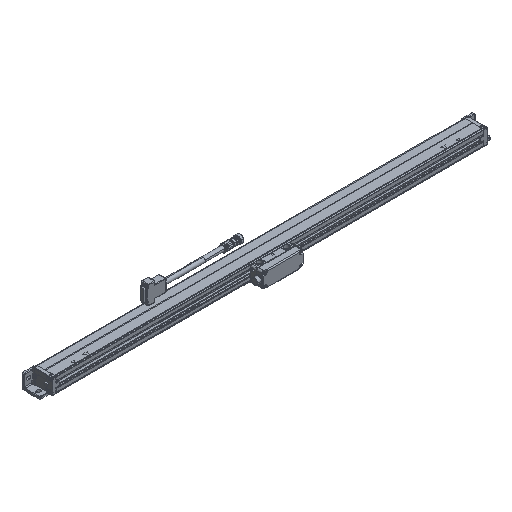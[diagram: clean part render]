
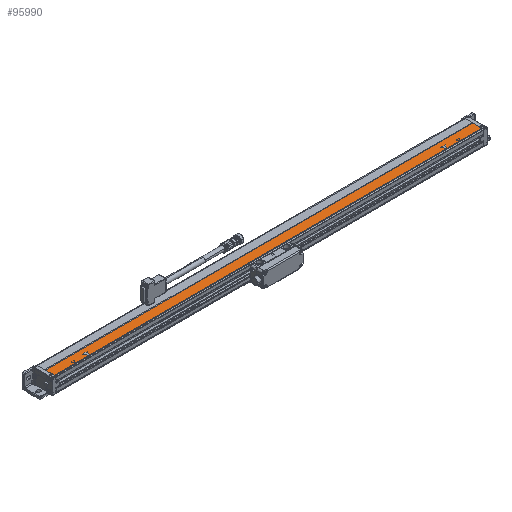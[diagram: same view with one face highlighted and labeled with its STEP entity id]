
A CAD part, isometric view. The second image highlights one B-rep face of the part: STEP entity #95990.
In plain terms, the highlighted planar face has unit normal (0, 0, 1).
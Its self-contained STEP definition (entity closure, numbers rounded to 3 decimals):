
#62340=CARTESIAN_POINT('',(1774.,65.11,34.29));
#62350=VERTEX_POINT('',#62340);
#62520=CARTESIAN_POINT('',(1772.268,68.11,34.29));
#62530=VERTEX_POINT('',#62520);
#62560=CARTESIAN_POINT('',(1759.197,90.75,34.29));
#62570=DIRECTION('',(-0.5,0.866,0.));
#62580=VECTOR('',#62570,1.);
#62590=LINE('',#62560,#62580);
#62600=EDGE_CURVE('',#62350,#62530,#62590,.T.);
#93670=CARTESIAN_POINT('',(2682.,82.01,34.29));
#93680=VERTEX_POINT('',#93670);
#93730=CARTESIAN_POINT('',(2144.,82.01,34.29));
#93740=DIRECTION('',(1.,0.,0.));
#93750=VECTOR('',#93740,1.);
#93760=LINE('',#93730,#93750);
#93770=CARTESIAN_POINT('',(1726.,82.01,34.29));
#93780=VERTEX_POINT('',#93770);
#93790=EDGE_CURVE('',#93780,#93680,#93760,.T.);
#94260=CARTESIAN_POINT('',(2144.,62.01,34.29));
#94270=DIRECTION('',(-0.,0.,1.));
#94280=DIRECTION('',(0.,-1.,0.));
#94290=AXIS2_PLACEMENT_3D('',#94260,#94270,#94280);
#94300=PLANE('',#94290);
#94310=CARTESIAN_POINT('',(2144.,62.01,34.29));
#94320=DIRECTION('',(1.,0.,0.));
#94330=VECTOR('',#94320,1.);
#94340=LINE('',#94310,#94330);
#94350=CARTESIAN_POINT('',(1726.,62.01,34.29));
#94360=VERTEX_POINT('',#94350);
#94370=CARTESIAN_POINT('',(2682.,62.01,34.29));
#94380=VERTEX_POINT('',#94370);
#94390=EDGE_CURVE('',#94360,#94380,#94340,.T.);
#94400=ORIENTED_EDGE('',*,*,#94390,.T.);
#94410=CARTESIAN_POINT('',(1726.,90.75,34.29));
#94420=DIRECTION('',(0.,-1.,0.));
#94430=VECTOR('',#94420,1.);
#94440=LINE('',#94410,#94430);
#94450=EDGE_CURVE('',#93780,#94360,#94440,.T.);
#94460=ORIENTED_EDGE('',*,*,#94450,.T.);
#94470=ORIENTED_EDGE('',*,*,#93790,.F.);
#94480=CARTESIAN_POINT('',(2682.,90.75,34.29));
#94490=DIRECTION('',(0.,1.,0.));
#94500=VECTOR('',#94490,1.);
#94510=LINE('',#94480,#94500);
#94520=EDGE_CURVE('',#94380,#93680,#94510,.T.);
#94530=ORIENTED_EDGE('',*,*,#94520,.T.);
#94540=EDGE_LOOP('',(#94530,#94470,#94460,#94400));
#94550=FACE_OUTER_BOUND('',#94540,.T.);
#94560=CARTESIAN_POINT('',(2650.535,90.75,34.29));
#94570=DIRECTION('',(0.5,0.866,0.));
#94580=VECTOR('',#94570,1.);
#94590=LINE('',#94560,#94580);
#94600=CARTESIAN_POINT('',(2634.,62.11,34.29));
#94610=VERTEX_POINT('',#94600);
#94620=CARTESIAN_POINT('',(2637.464,68.11,34.29));
#94630=VERTEX_POINT('',#94620);
#94640=EDGE_CURVE('',#94610,#94630,#94590,.T.);
#94650=ORIENTED_EDGE('',*,*,#94640,.F.);
#94660=CARTESIAN_POINT('',(2877.,68.11,34.29));
#94670=DIRECTION('',(-1.,0.,0.));
#94680=VECTOR('',#94670,1.);
#94690=LINE('',#94660,#94680);
#94700=CARTESIAN_POINT('',(2635.732,68.11,34.29));
#94710=VERTEX_POINT('',#94700);
#94720=EDGE_CURVE('',#94630,#94710,#94690,.T.);
#94730=ORIENTED_EDGE('',*,*,#94720,.F.);
#94740=CARTESIAN_POINT('',(2648.803,90.75,34.29));
#94750=DIRECTION('',(-0.5,-0.866,-0.));
#94760=VECTOR('',#94750,1.);
#94770=LINE('',#94740,#94760);
#94780=CARTESIAN_POINT('',(2634.,65.11,34.29));
#94790=VERTEX_POINT('',#94780);
#94800=EDGE_CURVE('',#94710,#94790,#94770,.T.);
#94810=ORIENTED_EDGE('',*,*,#94800,.F.);
#94820=CARTESIAN_POINT('',(2619.197,90.75,34.29));
#94830=DIRECTION('',(-0.5,0.866,0.));
#94840=VECTOR('',#94830,1.);
#94850=LINE('',#94820,#94840);
#94860=CARTESIAN_POINT('',(2632.268,68.11,34.29));
#94870=VERTEX_POINT('',#94860);
#94880=EDGE_CURVE('',#94790,#94870,#94850,.T.);
#94890=ORIENTED_EDGE('',*,*,#94880,.F.);
#94900=CARTESIAN_POINT('',(2877.,68.11,34.29));
#94910=DIRECTION('',(-1.,0.,0.));
#94920=VECTOR('',#94910,1.);
#94930=LINE('',#94900,#94920);
#94940=CARTESIAN_POINT('',(2630.536,68.11,34.29));
#94950=VERTEX_POINT('',#94940);
#94960=EDGE_CURVE('',#94870,#94950,#94930,.T.);
#94970=ORIENTED_EDGE('',*,*,#94960,.F.);
#94980=CARTESIAN_POINT('',(2617.465,90.75,34.29));
#94990=DIRECTION('',(0.5,-0.866,0.));
#95000=VECTOR('',#94990,1.);
#95010=LINE('',#94980,#95000);
#95020=EDGE_CURVE('',#94950,#94610,#95010,.T.);
#95030=ORIENTED_EDGE('',*,*,#95020,.F.);
#95040=EDGE_LOOP('',(#95030,#94970,#94890,#94810,#94730,#94650));
#95050=FACE_BOUND('',#95040,.T.);
#95060=CARTESIAN_POINT('',(642.,71.11,34.29));
#95070=DIRECTION('',(-1.,0.,0.));
#95080=VECTOR('',#95070,1.);
#95090=LINE('',#95060,#95080);
#95100=CARTESIAN_POINT('',(2609.196,71.11,34.29));
#95110=VERTEX_POINT('',#95100);
#95120=CARTESIAN_POINT('',(2598.804,71.11,34.29));
#95130=VERTEX_POINT('',#95120);
#95140=EDGE_CURVE('',#95110,#95130,#95090,.T.);
#95150=ORIENTED_EDGE('',*,*,#95140,.F.);
#95160=CARTESIAN_POINT('',(2587.465,90.75,34.29));
#95170=DIRECTION('',(0.5,-0.866,0.));
#95180=VECTOR('',#95170,1.);
#95190=LINE('',#95160,#95180);
#95200=CARTESIAN_POINT('',(2604.,62.11,34.29));
#95210=VERTEX_POINT('',#95200);
#95220=EDGE_CURVE('',#95130,#95210,#95190,.T.);
#95230=ORIENTED_EDGE('',*,*,#95220,.F.);
#95240=CARTESIAN_POINT('',(2620.535,90.75,34.29));
#95250=DIRECTION('',(0.5,0.866,0.));
#95260=VECTOR('',#95250,1.);
#95270=LINE('',#95240,#95260);
#95280=EDGE_CURVE('',#95210,#95110,#95270,.T.);
#95290=ORIENTED_EDGE('',*,*,#95280,.F.);
#95300=EDGE_LOOP('',(#95290,#95230,#95150));
#95310=FACE_BOUND('',#95300,.T.);
#95320=CARTESIAN_POINT('',(1787.465,90.75,34.29));
#95330=DIRECTION('',(0.5,-0.866,0.));
#95340=VECTOR('',#95330,1.);
#95350=LINE('',#95320,#95340);
#95360=CARTESIAN_POINT('',(1798.804,71.11,34.29));
#95370=VERTEX_POINT('',#95360);
#95380=CARTESIAN_POINT('',(1804.,62.11,34.29));
#95390=VERTEX_POINT('',#95380);
#95400=EDGE_CURVE('',#95370,#95390,#95350,.T.);
#95410=ORIENTED_EDGE('',*,*,#95400,.F.);
#95420=CARTESIAN_POINT('',(1820.535,90.75,34.29));
#95430=DIRECTION('',(0.5,0.866,0.));
#95440=VECTOR('',#95430,1.);
#95450=LINE('',#95420,#95440);
#95460=CARTESIAN_POINT('',(1809.196,71.11,34.29));
#95470=VERTEX_POINT('',#95460);
#95480=EDGE_CURVE('',#95390,#95470,#95450,.T.);
#95490=ORIENTED_EDGE('',*,*,#95480,.F.);
#95500=CARTESIAN_POINT('',(2342.,71.11,34.29));
#95510=DIRECTION('',(-1.,0.,0.));
#95520=VECTOR('',#95510,1.);
#95530=LINE('',#95500,#95520);
#95540=EDGE_CURVE('',#95470,#95370,#95530,.T.);
#95550=ORIENTED_EDGE('',*,*,#95540,.F.);
#95560=EDGE_LOOP('',(#95550,#95490,#95410));
#95570=FACE_BOUND('',#95560,.T.);
#95580=CARTESIAN_POINT('',(1790.535,90.75,34.29));
#95590=DIRECTION('',(0.5,0.866,0.));
#95600=VECTOR('',#95590,1.);
#95610=LINE('',#95580,#95600);
#95620=CARTESIAN_POINT('',(1774.,62.11,34.29));
#95630=VERTEX_POINT('',#95620);
#95640=CARTESIAN_POINT('',(1777.464,68.11,34.29));
#95650=VERTEX_POINT('',#95640);
#95660=EDGE_CURVE('',#95630,#95650,#95610,.T.);
#95670=ORIENTED_EDGE('',*,*,#95660,.F.);
#95680=CARTESIAN_POINT('',(2377.,68.11,34.29));
#95690=DIRECTION('',(-1.,0.,-0.));
#95700=VECTOR('',#95690,1.);
#95710=LINE('',#95680,#95700);
#95720=CARTESIAN_POINT('',(1775.732,68.11,34.29));
#95730=VERTEX_POINT('',#95720);
#95740=EDGE_CURVE('',#95650,#95730,#95710,.T.);
#95750=ORIENTED_EDGE('',*,*,#95740,.F.);
#95760=CARTESIAN_POINT('',(1788.803,90.75,34.29));
#95770=DIRECTION('',(-0.5,-0.866,-0.));
#95780=VECTOR('',#95770,1.);
#95790=LINE('',#95760,#95780);
#95800=EDGE_CURVE('',#95730,#62350,#95790,.T.);
#95810=ORIENTED_EDGE('',*,*,#95800,.F.);
#95820=ORIENTED_EDGE('',*,*,#62600,.F.);
#95830=CARTESIAN_POINT('',(2377.,68.11,34.29));
#95840=DIRECTION('',(-1.,0.,-0.));
#95850=VECTOR('',#95840,1.);
#95860=LINE('',#95830,#95850);
#95870=CARTESIAN_POINT('',(1770.536,68.11,34.29));
#95880=VERTEX_POINT('',#95870);
#95890=EDGE_CURVE('',#62530,#95880,#95860,.T.);
#95900=ORIENTED_EDGE('',*,*,#95890,.F.);
#95910=CARTESIAN_POINT('',(1757.465,90.75,34.29));
#95920=DIRECTION('',(0.5,-0.866,0.));
#95930=VECTOR('',#95920,1.);
#95940=LINE('',#95910,#95930);
#95950=EDGE_CURVE('',#95880,#95630,#95940,.T.);
#95960=ORIENTED_EDGE('',*,*,#95950,.F.);
#95970=EDGE_LOOP('',(#95960,#95900,#95820,#95810,#95750,#95670));
#95980=FACE_BOUND('',#95970,.T.);
#95990=ADVANCED_FACE('',(#94550,#95050,#95310,#95570,#95980),#94300,.T.)
;
